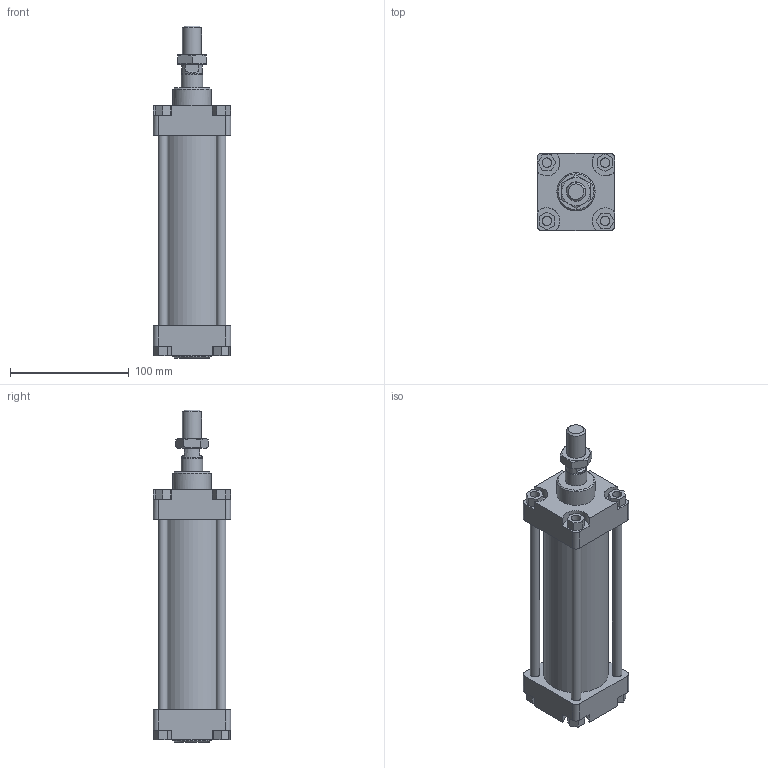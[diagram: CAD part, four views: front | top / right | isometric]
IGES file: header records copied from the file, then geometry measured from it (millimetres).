
Global section: file name: 130#_050_0100_01A; native system: Autodesk Inventor 2014; preprocessor: unknown; author: A. Manieri; date: 20161123.145438; units: millimetre
Bounding box: 65 x 65 x 279 mm (x, y, z)
Volume: 434674.1 mm3; surface area: 137949.8 mm2
Topology: 9 solids, 9 shells, 163 faces, 401 edges, 268 vertices
Faces by surface type: bspline 163
